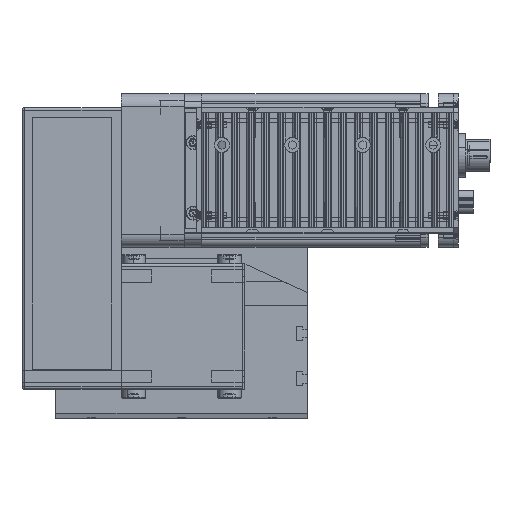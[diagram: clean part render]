
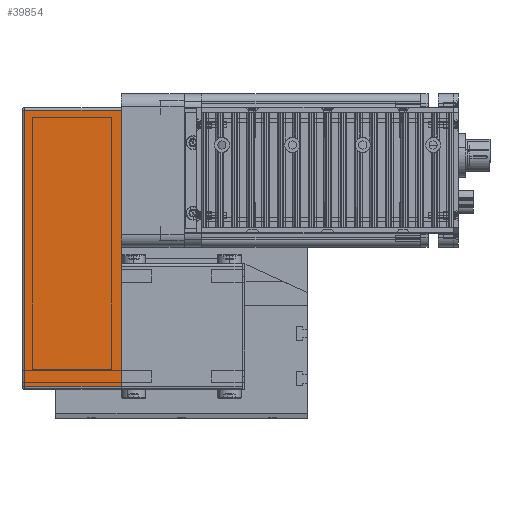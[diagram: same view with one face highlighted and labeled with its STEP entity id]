
A CAD part, top view. The second image highlights one B-rep face of the part: STEP entity #39854.
In plain terms, the highlighted planar face has unit normal (0, 0, 1) as drawn and (0, -1, 0) by its records, which use the part's own axes.
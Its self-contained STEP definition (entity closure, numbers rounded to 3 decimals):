
#20221 = CARTESIAN_POINT ( 'NONE',  ( -49., -25., 38.5 ) ) ;
#20267 = LINE ( 'NONE', #20316, #20314 ) ;
#20298 = CARTESIAN_POINT ( 'NONE',  ( -49., -25., 0. ) ) ;
#20313 = DIRECTION ( 'NONE',  ( 0., 0., 1. ) ) ;
#20314 = VECTOR ( 'NONE', #20313, 1000. ) ;
#20316 = CARTESIAN_POINT ( 'NONE',  ( -49., -25., 39.5 ) ) ;
#20346 = CARTESIAN_POINT ( 'NONE',  ( 61., -25., 38.5 ) ) ;
#20368 = CARTESIAN_POINT ( 'NONE',  ( 61., -25., 39.5 ) ) ;
#20369 = LINE ( 'NONE', #20368, #20410 ) ;
#20394 = CARTESIAN_POINT ( 'NONE',  ( 61., -25., 0. ) ) ;
#20409 = DIRECTION ( 'NONE',  ( 0., 0., -1. ) ) ;
#20410 = VECTOR ( 'NONE', #20409, 1000. ) ;
#20495 = DIRECTION ( 'NONE',  ( 1., 0., 0. ) ) ;
#20496 = VECTOR ( 'NONE', #20495, 1000. ) ;
#20497 = CARTESIAN_POINT ( 'NONE',  ( -50., -25., 38.5 ) ) ;
#20498 = LINE ( 'NONE', #20497, #20496 ) ;
#20499 = DIRECTION ( 'NONE',  ( 0., 1., 0. ) ) ;
#20500 = CARTESIAN_POINT ( 'NONE',  ( -50., -25., 39.5 ) ) ;
#20501 = DIRECTION ( 'NONE',  ( 1., 0., 0. ) ) ;
#20502 = VECTOR ( 'NONE', #20501, 1000. ) ;
#20513 = CARTESIAN_POINT ( 'NONE',  ( -50., -25., 0. ) ) ;
#20514 = LINE ( 'NONE', #20513, #20502 ) ;
#20536 = AXIS2_PLACEMENT_3D ( 'NONE', #20500, #20499, #20580 ) ;
#20550 = PLANE ( 'NONE',  #20536 ) ;
#20552 = FACE_OUTER_BOUND ( 'NONE', #39794, .T. ) ;
#20580 = DIRECTION ( 'NONE',  ( 0., 0., 1. ) ) ;
#39671 = VERTEX_POINT ( 'NONE', #20221 ) ;
#39719 = EDGE_CURVE ( 'NONE', #39727, #39671, #20267, .T. ) ;
#39727 = VERTEX_POINT ( 'NONE', #20298 ) ;
#39773 = EDGE_CURVE ( 'NONE', #39779, #39788, #20369, .T. ) ;
#39779 = VERTEX_POINT ( 'NONE', #20346 ) ;
#39788 = VERTEX_POINT ( 'NONE', #20394 ) ;
#39794 = EDGE_LOOP ( 'NONE', ( #39855, #39832, #39839, #39841 ) ) ;
#39832 = ORIENTED_EDGE ( 'NONE', *, *, #39834, .T. ) ;
#39834 = EDGE_CURVE ( 'NONE', #39727, #39788, #20514, .T. ) ;
#39836 = EDGE_CURVE ( 'NONE', #39671, #39779, #20498, .T. ) ;
#39839 = ORIENTED_EDGE ( 'NONE', *, *, #39773, .F. ) ;
#39841 = ORIENTED_EDGE ( 'NONE', *, *, #39836, .F. ) ;
#39854 = ADVANCED_FACE ( 'NONE', ( #20552 ), #20550, .F. ) ;
#39855 = ORIENTED_EDGE ( 'NONE', *, *, #39719, .F. ) ;
